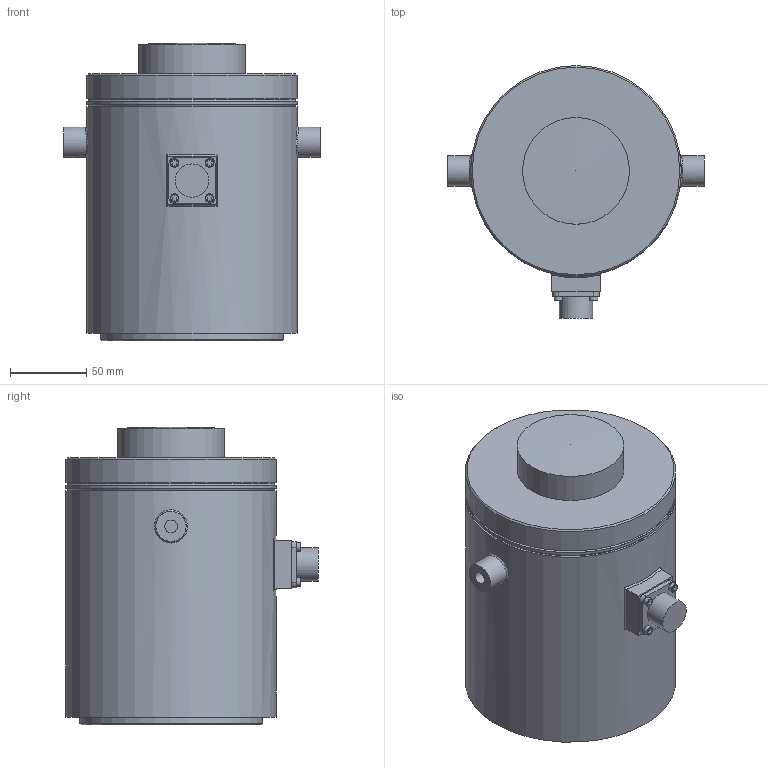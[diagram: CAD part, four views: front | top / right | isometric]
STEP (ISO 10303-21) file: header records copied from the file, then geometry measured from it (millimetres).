
FILE_DESCRIPTION(/* description */ ('Unknown'),/* implementation_level */ '2;1');
FILE_NAME(/* name */ 'C3XK-T100 SPEC',/* time_stamp */ '2021-05-11T15:27:07+09:00',/* author */ ('Unknown'),/* organization */ ('Unknown'),/* preprocessor_version */ 'ST-DEVELOPER v16.7',/* originating_system */ 'DEX',/* authorisation */ $);
FILE_SCHEMA (('AUTOMOTIVE_DESIGN {1 0 10303 214 3 1 1}'));
Length unit declared in the file: millimetre
Products named in the file (1): C3XK-T100 SPEC
Bounding box: 168 x 165.5 x 195 mm (x, y, z)
Volume: 2698926.4 mm3; surface area: 117391.1 mm2
Topology: 1 solids, 1 shells, 96 faces, 224 edges, 145 vertices
Faces by surface type: plane 56, cylinder 21, cone 10, bspline 6, torus 2, sphere 1
Full cylindrical faces by diameter (mm): 5.5 x4, 8.376 x2, 10 x1, 19.8 x2, 21.8 x1, 70 x1, 120 x1, 135 x2, 138 x3
Entity records: 3867 total; most frequent: CARTESIAN_POINT 1203, DIRECTION 388, ORIENTED_EDGE 354, EDGE_CURVE 177, FACE_BOUND 147, EDGE_LOOP 146, AXIS2_PLACEMENT_3D 144, VERTEX_POINT 134
